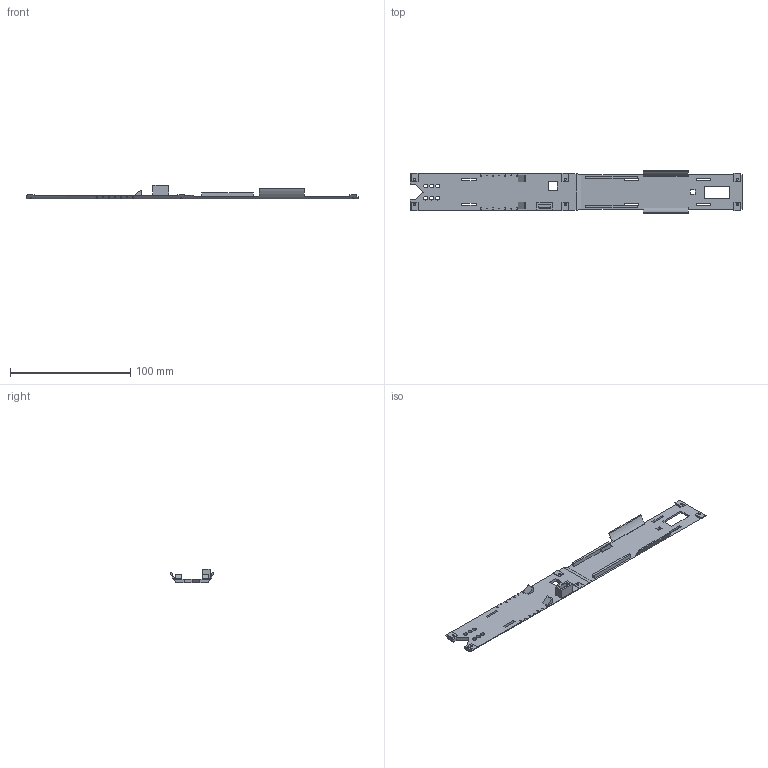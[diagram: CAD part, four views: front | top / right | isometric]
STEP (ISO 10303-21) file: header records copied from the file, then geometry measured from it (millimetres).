
FILE_DESCRIPTION(('SkyG Speed 90B - revision C6B-15 - 2026-10-12','TR-equipment-tray'),'2;1');
FILE_NAME('TR-equipment-tray_C6B-15','2026-10-12T17:13:41',('Author'),( 'Open CASCADE'),'Open CASCADE STEP processor 7.9','Open CASCADE 7.9' ,'Unknown');
FILE_SCHEMA(('AUTOMOTIVE_DESIGN { 1 0 10303 214 1 1 1 1 }'));
Length unit declared in the file: millimetre
Products named in the file (1): TR-equipment-tray C6B-15
Bounding box: 276 x 36.14 x 11.1 mm (x, y, z)
Volume: 17860.1 mm3; surface area: 19357.6 mm2
Topology: 1 solids, 1 shells, 179 faces, 537 edges, 358 vertices
Faces by surface type: plane 163, cylinder 16
Full cylindrical faces by diameter (mm): 1.6 x6, 3.3 x6
Entity records: 13323 total; most frequent: CARTESIAN_POINT 3627, DIRECTION 1446, ORIENTED_EDGE 1074, PCURVE 1074, DEFINITIONAL_REPRESENTATION 1074, LINE 845, VECTOR 845, B_SPLINE_CURVE_WITH_KNOTS 600
